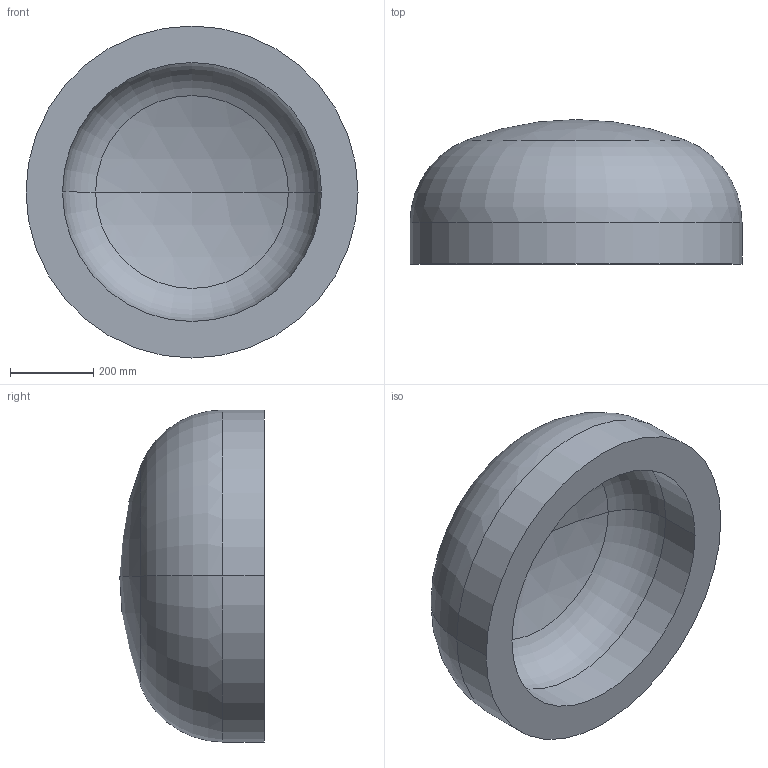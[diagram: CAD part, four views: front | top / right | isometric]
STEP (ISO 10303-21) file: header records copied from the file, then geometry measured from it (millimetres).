
FILE_DESCRIPTION (( 'STEP AP203' ), '1' );
FILE_NAME ('DIN 28013 Korbbogenform_-_Boden DIN 28013 - 800 x 100 - I - s=88.step', '2016-07-01T08:21:40', ( '' ), ( '' ), 'SwSTEP 2.0', 'SolidWorks 2013', '' );
FILE_SCHEMA (( 'CONFIG_CONTROL_DESIGN' ));
Length unit declared in the file: millimetre
Products named in the file (1): DIN 28013 Korbbogenform_-_Boden DIN 28013 - 800 x 100 - I - s=88
Bounding box: 800 x 348.15 x 800 mm (x, y, z)
Volume: 73365604.3 mm3; surface area: 1880458.5 mm2
Topology: 1 solids, 1 shells, 13 faces, 24 edges, 14 vertices
Faces by surface type: torus 4, cylinder 4, sphere 4, plane 1
Entity records: 407 total; most frequent: DIRECTION 72, CARTESIAN_POINT 52, ORIENTED_EDGE 48, AXIS2_PLACEMENT_3D 34, EDGE_CURVE 24, CIRCLE 20, VERTEX_POINT 14, EDGE_LOOP 14
